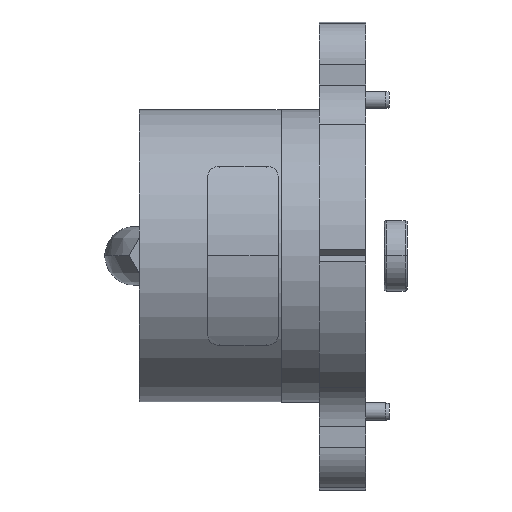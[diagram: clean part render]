
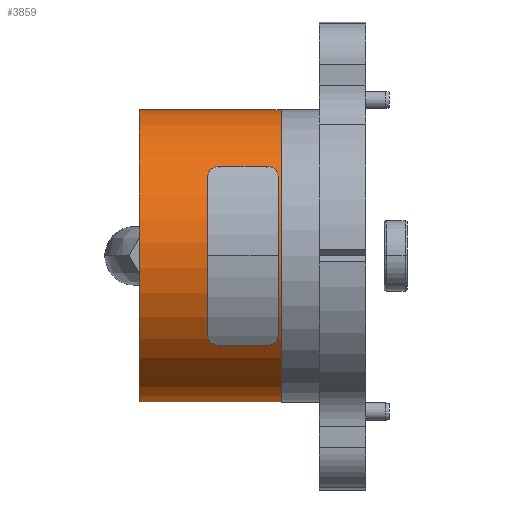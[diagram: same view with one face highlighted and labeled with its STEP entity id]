
A CAD part, left-side view. The second image highlights one B-rep face of the part: STEP entity #3859.
In plain terms, the highlighted cylindrical face has radius 12.5 mm (diameter 25 mm), a partial arc.
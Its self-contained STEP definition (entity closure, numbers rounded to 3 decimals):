
#249 = DIRECTION ( 'NONE',  ( 0., -1., 0. ) ) ;
#295 = CYLINDRICAL_SURFACE ( 'NONE', #1876, 12.5 ) ;
#315 = CARTESIAN_POINT ( 'NONE',  ( 9.914, 19.35, 7.614 ) ) ;
#318 = DIRECTION ( 'NONE',  ( 1., 0., 0. ) ) ;
#338 = CARTESIAN_POINT ( 'NONE',  ( 0., -20.318, 0. ) ) ;
#774 = DIRECTION ( 'NONE',  ( 0., 1., 0. ) ) ;
#777 = ORIENTED_EDGE ( 'NONE', *, *, #2018, .T. ) ;
#805 = VERTEX_POINT ( 'NONE', #1009 ) ;
#919 = LINE ( 'NONE', #2304, #4025 ) ;
#931 = CARTESIAN_POINT ( 'NONE',  ( 0., 19.35, 0. ) ) ;
#1009 = CARTESIAN_POINT ( 'NONE',  ( 9.914, 7.25, 7.614 ) ) ;
#1019 = EDGE_CURVE ( 'NONE', #1113, #1859, #2503, .T. ) ;
#1113 = VERTEX_POINT ( 'NONE', #315 ) ;
#1153 = EDGE_CURVE ( 'NONE', #805, #4207, #2361, .T. ) ;
#1859 = VERTEX_POINT ( 'NONE', #2303 ) ;
#1876 = AXIS2_PLACEMENT_3D ( 'NONE', #338, #2074, #318 ) ;
#1964 = DIRECTION ( 'NONE',  ( 0., -1., 0. ) ) ;
#2018 = EDGE_CURVE ( 'NONE', #1859, #4207, #919, .T. ) ;
#2074 = DIRECTION ( 'NONE',  ( 0., -1., 0. ) ) ;
#2093 = DIRECTION ( 'NONE',  ( 1., 0., 0. ) ) ;
#2303 = CARTESIAN_POINT ( 'NONE',  ( 9.914, 19.35, -7.614 ) ) ;
#2304 = CARTESIAN_POINT ( 'NONE',  ( 9.914, -20.318, -7.614 ) ) ;
#2361 = CIRCLE ( 'NONE', #2935, 12.5 ) ;
#2474 = ORIENTED_EDGE ( 'NONE', *, *, #1019, .T. ) ;
#2476 = VECTOR ( 'NONE', #774, 1000. ) ;
#2503 = CIRCLE ( 'NONE', #4031, 12.5 ) ;
#2589 = CARTESIAN_POINT ( 'NONE',  ( 9.914, 7.25, -7.614 ) ) ;
#2798 = LINE ( 'NONE', #3200, #2476 ) ;
#2935 = AXIS2_PLACEMENT_3D ( 'NONE', #3838, #3908, #2093 ) ;
#3200 = CARTESIAN_POINT ( 'NONE',  ( 9.914, -20.318, 7.614 ) ) ;
#3379 = EDGE_CURVE ( 'NONE', #805, #1113, #2798, .T. ) ;
#3777 = DIRECTION ( 'NONE',  ( 1., 0., 0. ) ) ;
#3838 = CARTESIAN_POINT ( 'NONE',  ( 0., 7.25, 0. ) ) ;
#3859 = ADVANCED_FACE ( 'NONE', ( #4403 ), #295, .T. ) ;
#3908 = DIRECTION ( 'NONE',  ( 0., -1., 0. ) ) ;
#3976 = ORIENTED_EDGE ( 'NONE', *, *, #1153, .F. ) ;
#4025 = VECTOR ( 'NONE', #1964, 1000. ) ;
#4031 = AXIS2_PLACEMENT_3D ( 'NONE', #931, #249, #3777 ) ;
#4047 = EDGE_LOOP ( 'NONE', ( #2474, #777, #3976, #4462 ) ) ;
#4207 = VERTEX_POINT ( 'NONE', #2589 ) ;
#4403 = FACE_OUTER_BOUND ( 'NONE', #4047, .T. ) ;
#4462 = ORIENTED_EDGE ( 'NONE', *, *, #3379, .T. ) ;
